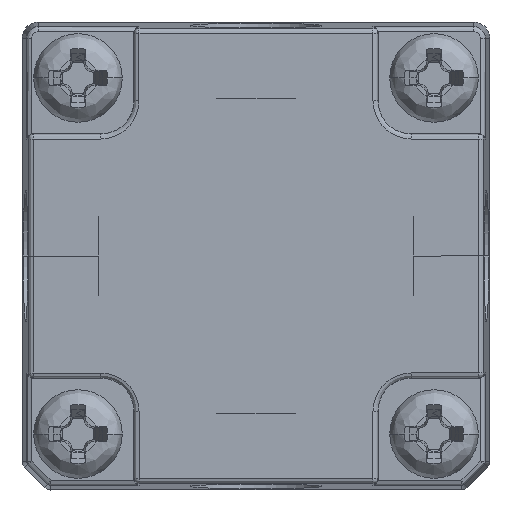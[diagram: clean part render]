
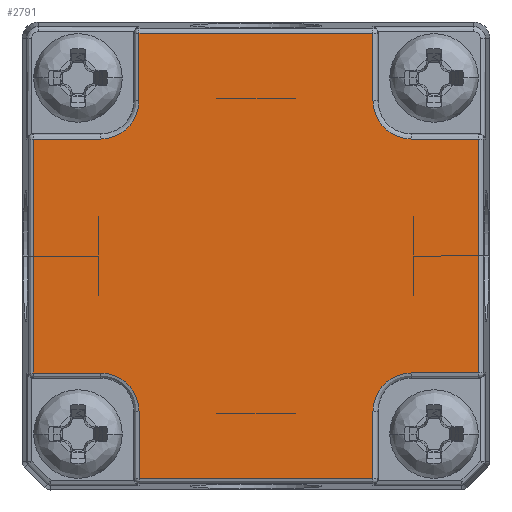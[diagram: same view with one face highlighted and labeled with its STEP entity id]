
A CAD part, front view. The second image highlights one B-rep face of the part: STEP entity #2791.
In plain terms, the highlighted planar face has unit normal (0, -1, 0) as drawn and (0, 1, 0) by its records, which use the part's own axes.
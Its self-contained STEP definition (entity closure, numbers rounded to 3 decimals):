
#1042=DIRECTION('',(1.,0.,0.));
#1043=VECTOR('',#1042,4.026);
#1044=CARTESIAN_POINT('',(9.3,11.,7.));
#1045=LINE('',#1044,#1043);
#1046=CARTESIAN_POINT('',(9.3,11.,9.3));
#1047=DIRECTION('',(0.,-1.,0.));
#1048=DIRECTION('',(-1.,0.,0.));
#1049=AXIS2_PLACEMENT_3D('',#1046,#1047,#1048);
#1051=DIRECTION('',(0.,0.,-1.));
#1052=VECTOR('',#1051,4.026);
#1053=CARTESIAN_POINT('',(7.,11.,13.326));
#1054=LINE('',#1053,#1052);
#1055=CARTESIAN_POINT('',(-9.3,11.,9.3));
#1056=DIRECTION('',(0.,1.,0.));
#1057=DIRECTION('',(1.,0.,0.));
#1058=AXIS2_PLACEMENT_3D('',#1055,#1056,#1057);
#1060=CARTESIAN_POINT('',(-9.3,11.,-9.3));
#1061=DIRECTION('',(0.,1.,0.));
#1062=DIRECTION('',(0.,0.,1.));
#1063=AXIS2_PLACEMENT_3D('',#1060,#1061,#1062);
#1065=CARTESIAN_POINT('',(9.3,11.,-9.3));
#1066=DIRECTION('',(0.,1.,0.));
#1067=DIRECTION('',(-1.,0.,0.));
#1068=AXIS2_PLACEMENT_3D('',#1065,#1066,#1067);
#1816=DIRECTION('',(0.,0.,1.));
#1817=VECTOR('',#1816,14.);
#1818=CARTESIAN_POINT('',(-13.326,11.,-7.));
#1819=LINE('',#1818,#1817);
#1843=DIRECTION('',(-1.,0.,0.));
#1844=VECTOR('',#1843,4.026);
#1845=CARTESIAN_POINT('',(-9.3,11.,-7.));
#1846=LINE('',#1845,#1844);
#1933=DIRECTION('',(0.,0.,1.));
#1934=VECTOR('',#1933,4.026);
#1935=CARTESIAN_POINT('',(-7.,11.,-13.326));
#1936=LINE('',#1935,#1934);
#1964=DIRECTION('',(-1.,0.,0.));
#1965=VECTOR('',#1964,14.);
#1966=CARTESIAN_POINT('',(7.,11.,-13.326));
#1967=LINE('',#1966,#1965);
#2158=DIRECTION('',(0.,0.,-1.));
#2159=VECTOR('',#2158,14.);
#2160=CARTESIAN_POINT('',(13.326,11.,7.));
#2161=LINE('',#2160,#2159);
#2166=DIRECTION('',(-1.,0.,0.));
#2167=VECTOR('',#2166,4.026);
#2168=CARTESIAN_POINT('',(13.326,11.,-7.));
#2169=LINE('',#2168,#2167);
#2209=DIRECTION('',(0.,0.,-1.));
#2210=VECTOR('',#2209,4.026);
#2211=CARTESIAN_POINT('',(7.,11.,-9.3));
#2212=LINE('',#2211,#2210);
#2221=DIRECTION('',(1.,0.,0.));
#2222=VECTOR('',#2221,4.026);
#2223=CARTESIAN_POINT('',(-13.326,11.,7.));
#2224=LINE('',#2223,#2222);
#2311=DIRECTION('',(0.,0.,1.));
#2312=VECTOR('',#2311,4.026);
#2313=CARTESIAN_POINT('',(-7.,11.,9.3));
#2314=LINE('',#2313,#2312);
#2324=DIRECTION('',(1.,0.,0.));
#2325=VECTOR('',#2324,14.);
#2326=CARTESIAN_POINT('',(-7.,11.,13.326));
#2327=LINE('',#2326,#2325);
#2440=CARTESIAN_POINT('',(-7.,11.,9.3));
#2441=CARTESIAN_POINT('',(-7.,11.,13.326));
#2442=VERTEX_POINT('',#2440);
#2443=VERTEX_POINT('',#2441);
#2444=CARTESIAN_POINT('',(-9.3,11.,7.));
#2445=VERTEX_POINT('',#2444);
#2446=CARTESIAN_POINT('',(-13.326,11.,7.));
#2447=VERTEX_POINT('',#2446);
#2448=CARTESIAN_POINT('',(-13.326,11.,-7.));
#2449=VERTEX_POINT('',#2448);
#2450=CARTESIAN_POINT('',(-9.3,11.,-7.));
#2451=VERTEX_POINT('',#2450);
#2452=CARTESIAN_POINT('',(-7.,11.,-9.3));
#2453=VERTEX_POINT('',#2452);
#2454=CARTESIAN_POINT('',(-7.,11.,-13.326));
#2455=VERTEX_POINT('',#2454);
#2456=CARTESIAN_POINT('',(7.,11.,-13.326));
#2457=VERTEX_POINT('',#2456);
#2458=CARTESIAN_POINT('',(7.,11.,-9.3));
#2459=VERTEX_POINT('',#2458);
#2460=CARTESIAN_POINT('',(9.3,11.,-7.));
#2461=VERTEX_POINT('',#2460);
#2462=CARTESIAN_POINT('',(13.326,11.,-7.));
#2463=VERTEX_POINT('',#2462);
#2648=CARTESIAN_POINT('',(13.326,11.,7.));
#2649=VERTEX_POINT('',#2648);
#2650=CARTESIAN_POINT('',(9.3,11.,7.));
#2651=VERTEX_POINT('',#2650);
#2654=CARTESIAN_POINT('',(7.,11.,9.3));
#2655=VERTEX_POINT('',#2654);
#2658=CARTESIAN_POINT('',(7.,11.,13.326));
#2659=VERTEX_POINT('',#2658);
#2752=CARTESIAN_POINT('',(-12.29,11.,-13.5));
#2753=DIRECTION('',(0.,1.,0.));
#2754=DIRECTION('',(0.,0.,1.));
#2755=AXIS2_PLACEMENT_3D('',#2752,#2753,#2754);
#2756=PLANE('',#2755);
#2758=ORIENTED_EDGE('',*,*,#2757,.F.);
#2760=ORIENTED_EDGE('',*,*,#2759,.F.);
#2762=ORIENTED_EDGE('',*,*,#2761,.F.);
#2764=ORIENTED_EDGE('',*,*,#2763,.F.);
#2766=ORIENTED_EDGE('',*,*,#2765,.F.);
#2768=ORIENTED_EDGE('',*,*,#2767,.T.);
#2770=ORIENTED_EDGE('',*,*,#2769,.F.);
#2772=ORIENTED_EDGE('',*,*,#2771,.F.);
#2774=ORIENTED_EDGE('',*,*,#2773,.F.);
#2776=ORIENTED_EDGE('',*,*,#2775,.T.);
#2778=ORIENTED_EDGE('',*,*,#2777,.F.);
#2780=ORIENTED_EDGE('',*,*,#2779,.F.);
#2782=ORIENTED_EDGE('',*,*,#2781,.F.);
#2784=ORIENTED_EDGE('',*,*,#2783,.T.);
#2786=ORIENTED_EDGE('',*,*,#2785,.F.);
#2788=ORIENTED_EDGE('',*,*,#2787,.F.);
#2789=EDGE_LOOP('',(#2758,#2760,#2762,#2764,#2766,#2768,#2770,#2772,#2774,#2776,
#2778,#2780,#2782,#2784,#2786,#2788));
#2790=FACE_OUTER_BOUND('',#2789,.F.);
#2791=ADVANCED_FACE('',(#2790),#2756,.T.);
#1050=CIRCLE('',#1049,2.3);
#1059=CIRCLE('',#1058,2.3);
#1064=CIRCLE('',#1063,2.3);
#1069=CIRCLE('',#1068,2.3);
#2757=EDGE_CURVE('',#2651,#2649,#1045,.T.);
#2759=EDGE_CURVE('',#2655,#2651,#1050,.T.);
#2761=EDGE_CURVE('',#2659,#2655,#1054,.T.);
#2763=EDGE_CURVE('',#2443,#2659,#2327,.T.);
#2765=EDGE_CURVE('',#2442,#2443,#2314,.T.);
#2767=EDGE_CURVE('',#2442,#2445,#1059,.T.);
#2769=EDGE_CURVE('',#2447,#2445,#2224,.T.);
#2771=EDGE_CURVE('',#2449,#2447,#1819,.T.);
#2773=EDGE_CURVE('',#2451,#2449,#1846,.T.);
#2775=EDGE_CURVE('',#2451,#2453,#1064,.T.);
#2777=EDGE_CURVE('',#2455,#2453,#1936,.T.);
#2779=EDGE_CURVE('',#2457,#2455,#1967,.T.);
#2781=EDGE_CURVE('',#2459,#2457,#2212,.T.);
#2783=EDGE_CURVE('',#2459,#2461,#1069,.T.);
#2785=EDGE_CURVE('',#2463,#2461,#2169,.T.);
#2787=EDGE_CURVE('',#2649,#2463,#2161,.T.);
